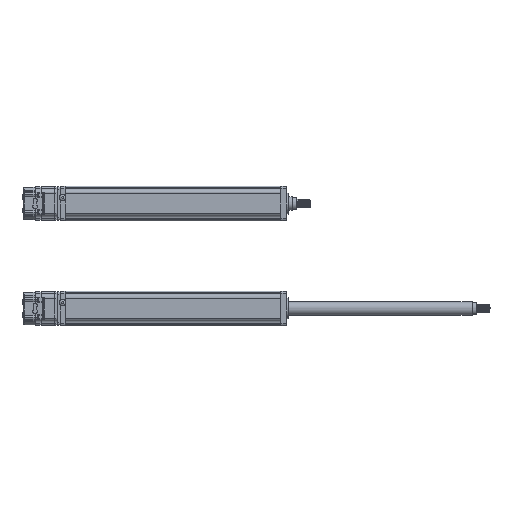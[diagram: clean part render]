
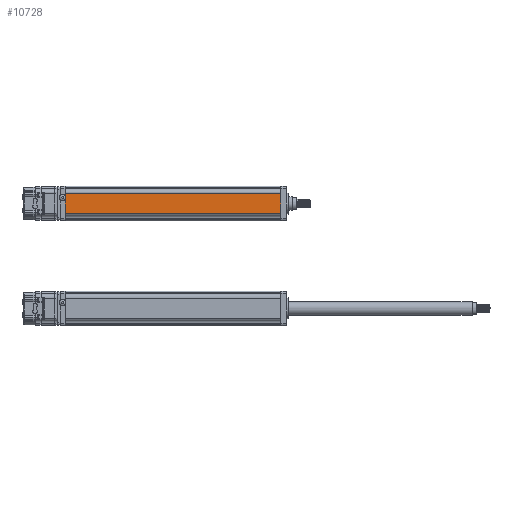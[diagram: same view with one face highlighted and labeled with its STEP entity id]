
A CAD part, top view. The second image highlights one B-rep face of the part: STEP entity #10728.
In plain terms, the highlighted planar face has unit normal (0, 0, 1).
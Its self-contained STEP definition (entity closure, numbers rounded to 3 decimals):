
#8803 = PLANE('',#8804);
#8804 = AXIS2_PLACEMENT_3D('',#8805,#8806,#8807);
#8805 = CARTESIAN_POINT('',(604.,195.885,-44.316));
#8806 = DIRECTION('',(-1.,0.,0.));
#8807 = DIRECTION('',(0.,-1.,0.));
#8864 = PLANE('',#8865);
#8865 = AXIS2_PLACEMENT_3D('',#8866,#8867,#8868);
#8866 = CARTESIAN_POINT('',(964.,195.885,
    -44.316));
#8867 = DIRECTION('',(-1.,0.,0.));
#8868 = DIRECTION('',(0.,-1.,0.));
#9473 = VERTEX_POINT('',#9474);
#9474 = CARTESIAN_POINT('',(964.,150.885,
    13.684));
#9482 = CYLINDRICAL_SURFACE('',#9483,2.5);
#9483 = AXIS2_PLACEMENT_3D('',#9484,#9485,#9486);
#9484 = CARTESIAN_POINT('',(604.,150.885,11.184));
#9485 = DIRECTION('',(-1.,0.,0.));
#9486 = DIRECTION('',(0.,0.,1.));
#9501 = EDGE_CURVE('',#9473,#9502,#9504,.T.);
#9502 = VERTEX_POINT('',#9503);
#9503 = CARTESIAN_POINT('',(604.,150.885,13.684));
#9504 = SURFACE_CURVE('',#9505,(#9509,#9516),.PCURVE_S1.);
#9505 = LINE('',#9506,#9507);
#9506 = CARTESIAN_POINT('',(784.,150.885,
    13.684));
#9507 = VECTOR('',#9508,1.);
#9508 = DIRECTION('',(-1.,0.,0.));
#9509 = PCURVE('',#9482,#9510);
#9510 = DEFINITIONAL_REPRESENTATION('',(#9511),#9515);
#9511 = LINE('',#9512,#9513);
#9512 = CARTESIAN_POINT('',(6.283,-180.));
#9513 = VECTOR('',#9514,1.);
#9514 = DIRECTION('',(0.,1.));
#9515 = ( GEOMETRIC_REPRESENTATION_CONTEXT(2) 
PARAMETRIC_REPRESENTATION_CONTEXT() REPRESENTATION_CONTEXT('2D SPACE',''
  ) );
#9516 = PCURVE('',#9517,#9522);
#9517 = PLANE('',#9518);
#9518 = AXIS2_PLACEMENT_3D('',#9519,#9520,#9521);
#9519 = CARTESIAN_POINT('',(604.,182.885,13.684));
#9520 = DIRECTION('',(0.,0.,-1.));
#9521 = DIRECTION('',(1.,0.,0.));
#9522 = DEFINITIONAL_REPRESENTATION('',(#9523),#9527);
#9523 = LINE('',#9524,#9525);
#9524 = CARTESIAN_POINT('',(180.,32.));
#9525 = VECTOR('',#9526,1.);
#9526 = DIRECTION('',(-1.,0.));
#9527 = ( GEOMETRIC_REPRESENTATION_CONTEXT(2) 
PARAMETRIC_REPRESENTATION_CONTEXT() REPRESENTATION_CONTEXT('2D SPACE',''
  ) );
#9589 = VERTEX_POINT('',#9590);
#9590 = CARTESIAN_POINT('',(604.,182.885,13.684));
#9598 = CYLINDRICAL_SURFACE('',#9599,2.5);
#9599 = AXIS2_PLACEMENT_3D('',#9600,#9601,#9602);
#9600 = CARTESIAN_POINT('',(964.,182.885,
    11.184));
#9601 = DIRECTION('',(1.,0.,0.));
#9602 = DIRECTION('',(0.,0.,1.));
#9621 = EDGE_CURVE('',#9589,#9622,#9624,.T.);
#9622 = VERTEX_POINT('',#9623);
#9623 = CARTESIAN_POINT('',(964.,182.885,
    13.684));
#9624 = SURFACE_CURVE('',#9625,(#9629,#9636),.PCURVE_S1.);
#9625 = LINE('',#9626,#9627);
#9626 = CARTESIAN_POINT('',(784.,182.885,
    13.684));
#9627 = VECTOR('',#9628,1.);
#9628 = DIRECTION('',(1.,0.,0.));
#9629 = PCURVE('',#9598,#9630);
#9630 = DEFINITIONAL_REPRESENTATION('',(#9631),#9635);
#9631 = LINE('',#9632,#9633);
#9632 = CARTESIAN_POINT('',(6.283,-180.));
#9633 = VECTOR('',#9634,1.);
#9634 = DIRECTION('',(0.,1.));
#9635 = ( GEOMETRIC_REPRESENTATION_CONTEXT(2) 
PARAMETRIC_REPRESENTATION_CONTEXT() REPRESENTATION_CONTEXT('2D SPACE',''
  ) );
#9636 = PCURVE('',#9517,#9637);
#9637 = DEFINITIONAL_REPRESENTATION('',(#9638),#9642);
#9638 = LINE('',#9639,#9640);
#9639 = CARTESIAN_POINT('',(180.,0.));
#9640 = VECTOR('',#9641,1.);
#9641 = DIRECTION('',(1.,0.));
#9642 = ( GEOMETRIC_REPRESENTATION_CONTEXT(2) 
PARAMETRIC_REPRESENTATION_CONTEXT() REPRESENTATION_CONTEXT('2D SPACE',''
  ) );
#10049 = EDGE_CURVE('',#9622,#9473,#10050,.T.);
#10050 = SURFACE_CURVE('',#10051,(#10055,#10062),.PCURVE_S1.);
#10051 = LINE('',#10052,#10053);
#10052 = CARTESIAN_POINT('',(964.,166.885,
    13.684));
#10053 = VECTOR('',#10054,1.);
#10054 = DIRECTION('',(0.,-1.,0.));
#10055 = PCURVE('',#8864,#10056);
#10056 = DEFINITIONAL_REPRESENTATION('',(#10057),#10061);
#10057 = LINE('',#10058,#10059);
#10058 = CARTESIAN_POINT('',(29.,58.));
#10059 = VECTOR('',#10060,1.);
#10060 = DIRECTION('',(1.,0.));
#10061 = ( GEOMETRIC_REPRESENTATION_CONTEXT(2) 
PARAMETRIC_REPRESENTATION_CONTEXT() REPRESENTATION_CONTEXT('2D SPACE',''
  ) );
#10062 = PCURVE('',#9517,#10063);
#10063 = DEFINITIONAL_REPRESENTATION('',(#10064),#10068);
#10064 = LINE('',#10065,#10066);
#10065 = CARTESIAN_POINT('',(360.,16.));
#10066 = VECTOR('',#10067,1.);
#10067 = DIRECTION('',(0.,1.));
#10068 = ( GEOMETRIC_REPRESENTATION_CONTEXT(2) 
PARAMETRIC_REPRESENTATION_CONTEXT() REPRESENTATION_CONTEXT('2D SPACE',''
  ) );
#10490 = EDGE_CURVE('',#9502,#9589,#10491,.T.);
#10491 = SURFACE_CURVE('',#10492,(#10496,#10503),.PCURVE_S1.);
#10492 = LINE('',#10493,#10494);
#10493 = CARTESIAN_POINT('',(604.,166.885,13.684));
#10494 = VECTOR('',#10495,1.);
#10495 = DIRECTION('',(0.,1.,0.));
#10496 = PCURVE('',#8803,#10497);
#10497 = DEFINITIONAL_REPRESENTATION('',(#10498),#10502);
#10498 = LINE('',#10499,#10500);
#10499 = CARTESIAN_POINT('',(29.,58.));
#10500 = VECTOR('',#10501,1.);
#10501 = DIRECTION('',(-1.,0.));
#10502 = ( GEOMETRIC_REPRESENTATION_CONTEXT(2) 
PARAMETRIC_REPRESENTATION_CONTEXT() REPRESENTATION_CONTEXT('2D SPACE',''
  ) );
#10503 = PCURVE('',#9517,#10504);
#10504 = DEFINITIONAL_REPRESENTATION('',(#10505),#10509);
#10505 = LINE('',#10506,#10507);
#10506 = CARTESIAN_POINT('',(0.,16.));
#10507 = VECTOR('',#10508,1.);
#10508 = DIRECTION('',(0.,-1.));
#10509 = ( GEOMETRIC_REPRESENTATION_CONTEXT(2) 
PARAMETRIC_REPRESENTATION_CONTEXT() REPRESENTATION_CONTEXT('2D SPACE',''
  ) );
#10728 = ADVANCED_FACE('',(#10729),#9517,.F.);
#10729 = FACE_BOUND('',#10730,.T.);
#10730 = EDGE_LOOP('',(#10731,#10732,#10733,#10734));
#10731 = ORIENTED_EDGE('',*,*,#9501,.F.);
#10732 = ORIENTED_EDGE('',*,*,#10049,.F.);
#10733 = ORIENTED_EDGE('',*,*,#9621,.F.);
#10734 = ORIENTED_EDGE('',*,*,#10490,.F.);
